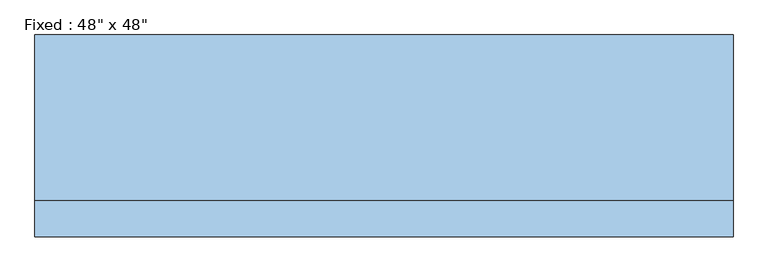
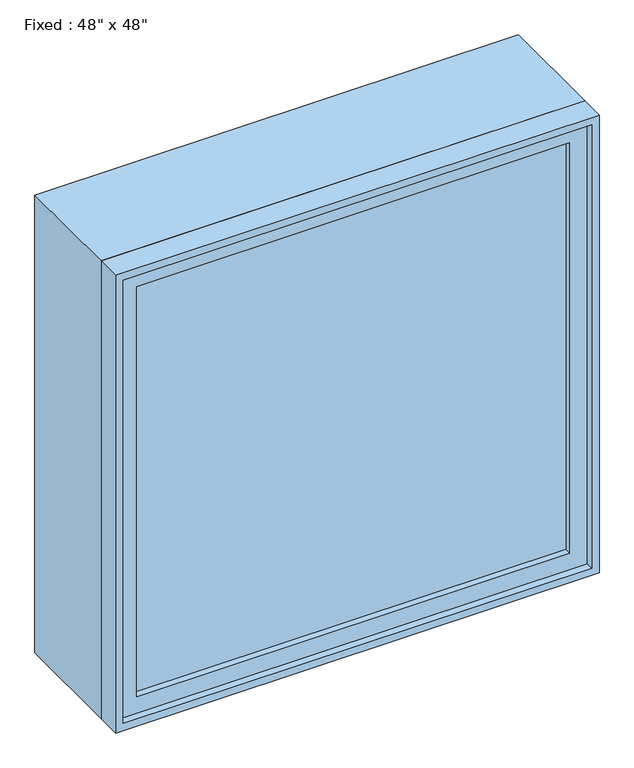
"""IFC4 building model written with IfcOpenShell, lengths in millimetres: window geometry."""

from ifc_helpers import new_model, si_unit, frame, origin, place, context, project, spatial, polyline, outline, extrude, source, transform, mapped, element, save


def window_d89bf842(model_context):
    return source(origin(), model_context, "Body", "SweptSolid", [
        extrude(outline(polyline([(508.0, -128.5875), (508.0, -141.2875), (-584.2, -141.2875), (-584.2, -128.5875), (508.0, -128.5875)])), frame((0.0, 0.0, 977.9), z_axis=(0.0, 0.0, 1.0), x_axis=(1.0, 0.0, 0.0)), (0.0, 0.0, 1.0), 1092.2),
        extrude(outline(polyline([(2114.55, -628.65), (933.45, -628.65), (933.45, 552.45), (2114.55, 552.45), (2114.55, -628.65)]), holes=[polyline([(2070.1, -584.2), (2070.1, 508.0), (977.9, 508.0), (977.9, -584.2), (2070.1, -584.2)])]), frame((0.0, -157.1625, 0.0), z_axis=(0.0, 1.0, 0.0), x_axis=(0.0, 0.0, 1.0)), (0.0, 0.0, 1.0), 44.45),
        extrude(outline(polyline([(2133.6, -647.7), (914.4, -647.7), (914.4, 571.5), (2133.6, 571.5), (2133.6, -647.7)]), holes=[polyline([(2101.85, -615.95), (2101.85, 539.75), (946.15, 539.75), (946.15, -615.95), (2101.85, -615.95)])]), frame((0.0, -112.7125, 0.0), z_axis=(0.0, 1.0, 0.0), x_axis=(0.0, 0.0, 1.0)), (0.0, 0.0, 1.0), 288.925),
        extrude(outline(polyline([(2133.6, 571.5), (2133.6, -647.7), (914.4, -647.7), (914.4, 571.5), (2133.6, 571.5)]), holes=[polyline([(2114.55, 552.45), (933.45, 552.45), (933.45, -628.65), (2114.55, -628.65), (2114.55, 552.45)])]), frame((0.0, -176.2125, 0.0), z_axis=(0.0, 1.0, 0.0), x_axis=(0.0, 0.0, 1.0)), (0.0, 0.0, 1.0), 63.5),
    ])


if __name__ == "__main__":
    model = new_model("IFC4")
    model_context = context("Model", 3, world=origin())
    ifc_project = project(units=[si_unit("LENGTHUNIT", "METRE", prefix="MILLI")], contexts=[model_context])
    site = spatial("IfcSite", under=ifc_project)
    building = spatial("IfcBuilding", under=site)
    placement = place(None, origin())
    window_shape = window_d89bf842(model_context)
    element("IfcWindow", 1, ObjectType="Fixed : 48\" x 48\"", at=placement, inside=building, context=model_context, shape_type="MappedRepresentation", body=[
        mapped(window_shape, transform((0.0, 0.0, 0.0), x_axis=(1.0, 0.0, 0.0), y_axis=(0.0, 1.0, 0.0), z_axis=(0.0, 0.0, 1.0))),
    ])
    save(model, "model.ifc")
